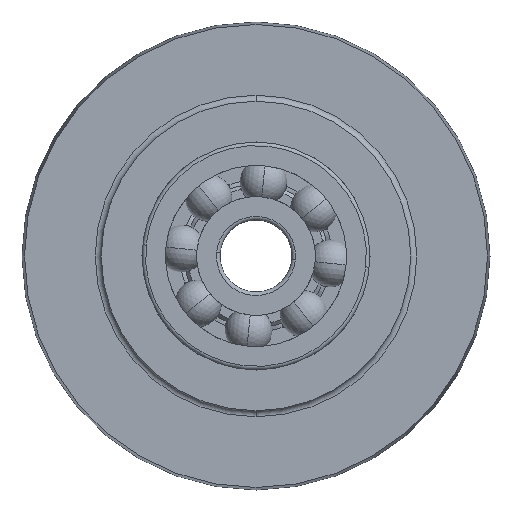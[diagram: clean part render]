
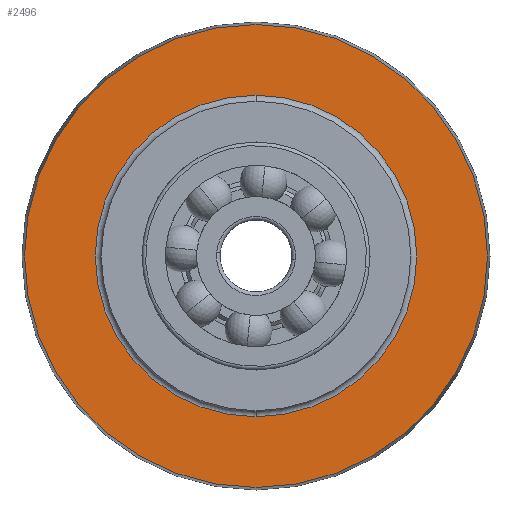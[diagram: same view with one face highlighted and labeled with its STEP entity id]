
A CAD part, front view. The second image highlights one B-rep face of the part: STEP entity #2496.
In plain terms, the highlighted planar face has unit normal (0, -1, 0).
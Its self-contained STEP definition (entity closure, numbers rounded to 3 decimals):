
#402 = VERTEX_POINT ( 'NONE', #1712 ) ;
#409 = VERTEX_POINT ( 'NONE', #1695 ) ;
#419 = VERTEX_POINT ( 'NONE', #1688 ) ;
#427 = VERTEX_POINT ( 'NONE', #2083 ) ;
#966 = EDGE_CURVE ( 'NONE', #402, #427, #3350, .T. ) ;
#989 = EDGE_CURVE ( 'NONE', #427, #402, #3338, .T. ) ;
#997 = EDGE_CURVE ( 'NONE', #409, #419, #3334, .T. ) ;
#1046 = EDGE_CURVE ( 'NONE', #419, #409, #1320, .T. ) ;
#1070 = AXIS2_PLACEMENT_3D ( 'NONE', #2716, #2779, #2782 ) ;
#1107 = AXIS2_PLACEMENT_3D ( 'NONE', #4091, #4100, #4084 ) ;
#1112 = AXIS2_PLACEMENT_3D ( 'NONE', #4110, #4109, #4112 ) ;
#1123 = AXIS2_PLACEMENT_3D ( 'NONE', #4024, #4023, #4022 ) ;
#1320 = CIRCLE ( 'NONE', #1070, 19.29 ) ;
#1323 = FACE_OUTER_BOUND ( 'NONE', #3896, .T. ) ;
#1324 = FACE_BOUND ( 'NONE', #3725, .T. ) ;
#1566 = AXIS2_PLACEMENT_3D ( 'NONE', #2339, #2340, #2401 ) ;
#1688 = CARTESIAN_POINT ( 'NONE',  ( 0., 5.8, 19.29 ) ) ;
#1695 = CARTESIAN_POINT ( 'NONE',  ( 0., 5.8, -19.29 ) ) ;
#1712 = CARTESIAN_POINT ( 'NONE',  ( 0., 5.8, -13.4 ) ) ;
#2083 = CARTESIAN_POINT ( 'NONE',  ( 0., 5.8, 13.4 ) ) ;
#2339 = CARTESIAN_POINT ( 'NONE',  ( 12.9, 5.8, 0. ) ) ;
#2340 = DIRECTION ( 'NONE',  ( 0., -1., 0. ) ) ;
#2384 = PLANE ( 'NONE',  #1566 ) ;
#2401 = DIRECTION ( 'NONE',  ( 0., 0., -1. ) ) ;
#2496 = ADVANCED_FACE ( 'NONE', ( #1324, #1323 ), #2384, .T. ) ;
#2716 = CARTESIAN_POINT ( 'NONE',  ( 0., 5.8, 0. ) ) ;
#2779 = DIRECTION ( 'NONE',  ( 0., -1., 0. ) ) ;
#2782 = DIRECTION ( 'NONE',  ( 0., 0., -1. ) ) ;
#3007 = ORIENTED_EDGE ( 'NONE', *, *, #989, .T. ) ;
#3034 = ORIENTED_EDGE ( 'NONE', *, *, #1046, .T. ) ;
#3035 = ORIENTED_EDGE ( 'NONE', *, *, #997, .T. ) ;
#3334 = CIRCLE ( 'NONE', #1107, 19.29 ) ;
#3338 = CIRCLE ( 'NONE', #1123, 13.4 ) ;
#3350 = CIRCLE ( 'NONE', #1112, 13.4 ) ;
#3725 = EDGE_LOOP ( 'NONE', ( #3810, #3007 ) ) ;
#3810 = ORIENTED_EDGE ( 'NONE', *, *, #966, .T. ) ;
#3896 = EDGE_LOOP ( 'NONE', ( #3034, #3035 ) ) ;
#4022 = DIRECTION ( 'NONE',  ( 0., 0., -1. ) ) ;
#4023 = DIRECTION ( 'NONE',  ( 0., 1., 0. ) ) ;
#4024 = CARTESIAN_POINT ( 'NONE',  ( 0., 5.8, 0. ) ) ;
#4084 = DIRECTION ( 'NONE',  ( 0., 0., -1. ) ) ;
#4091 = CARTESIAN_POINT ( 'NONE',  ( 0., 5.8, 0. ) ) ;
#4100 = DIRECTION ( 'NONE',  ( 0., -1., 0. ) ) ;
#4109 = DIRECTION ( 'NONE',  ( 0., 1., 0. ) ) ;
#4110 = CARTESIAN_POINT ( 'NONE',  ( 0., 5.8, 0. ) ) ;
#4112 = DIRECTION ( 'NONE',  ( 0., 0., -1. ) ) ;
